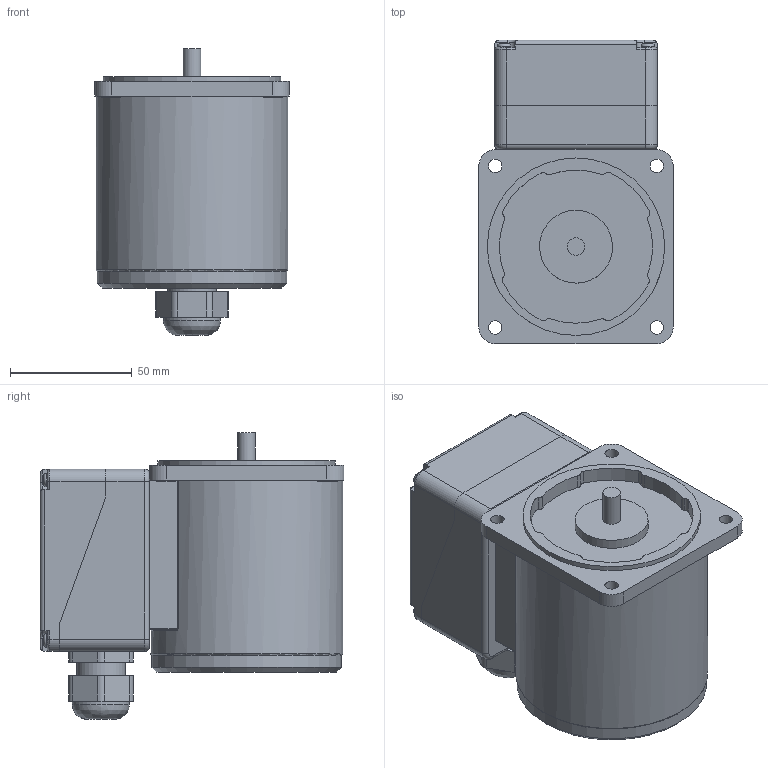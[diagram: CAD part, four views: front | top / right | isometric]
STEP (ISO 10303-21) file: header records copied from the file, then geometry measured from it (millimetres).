
FILE_DESCRIPTION((''),'2;1');
FILE_NAME('E:\2공장-도면\3D\표준형 3D(민규)\step file\K8IG25Nㅁ-T5.stp','2014-11-12T17:43:56',('AHN'),(''),'Autodesk Inventor 2012','Autodesk Inventor 2012','');
FILE_SCHEMA(('CONFIG_CONTROL_DESIGN'));
Length unit declared in the file: millimetre
Products named in the file (5): K8IG25Nㅁ-T5; COVER(a); 케이블; BASE(a); K8IG25Nㅁ
Assembly tree (4 placements, depth 2):
  K8IG25Nㅁ-T5
    COVER(a)
    케이블
    BASE(a)
    K8IG25Nㅁ
Bounding box: 80 x 125 x 117.97 mm (x, y, z)
Volume: 509493.5 mm3; surface area: 81527.9 mm2
Topology: 4 solids, 4 shells, 504 faces, 1265 edges, 779 vertices
Faces by surface type: cylinder 232, plane 130, torus 92, bspline 21, sphere 20, cone 9
Full cylindrical faces by diameter (mm): 3.242 x4, 3.5 x4, 4.5 x4, 5.5 x8, 7.21 x1, 8 x4, 20 x1, 21 x1, 23.5 x1, 30 x1, 73 x1, 78 x1, 79 x1
Entity records: 15801 total; most frequent: CARTESIAN_POINT 3545, DIRECTION 2793, ORIENTED_EDGE 2378, EDGE_CURVE 1189, AXIS2_PLACEMENT_3D 1147, VERTEX_POINT 760, CIRCLE 647, EDGE_LOOP 589
